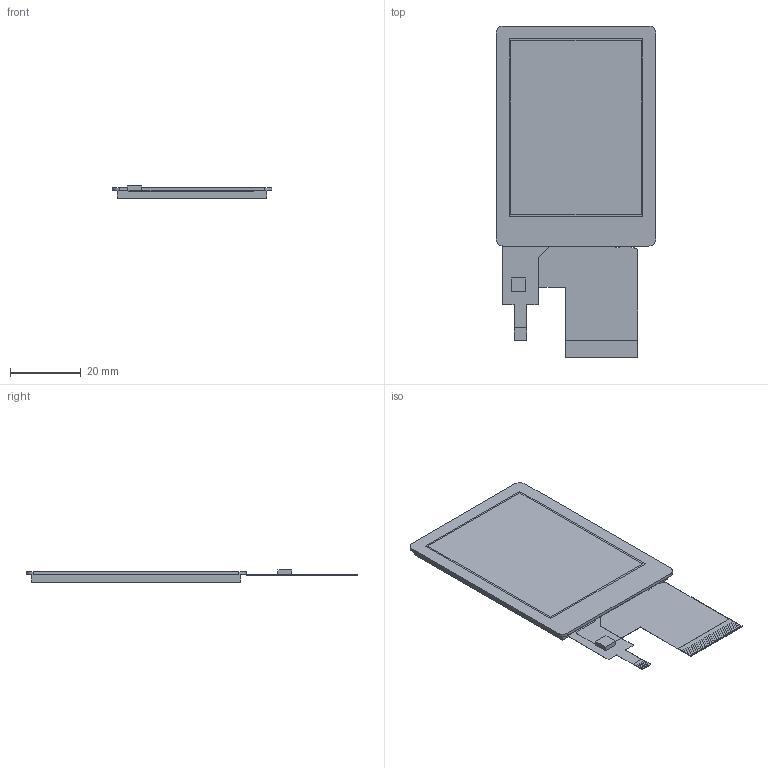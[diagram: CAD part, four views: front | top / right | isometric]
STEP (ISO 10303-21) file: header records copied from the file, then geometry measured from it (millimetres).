
FILE_DESCRIPTION (( 'STEP AP214' ), '1' );
FILE_NAME ('CFAF240320A0-024SC.STEP', '2024-02-05T20:19:20', ( '' ), ( '' ), 'SwSTEP 2.0', 'SolidWorks 2021', '' );
FILE_SCHEMA (( 'AUTOMOTIVE_DESIGN' ));
Length unit declared in the file: millimetre
Products named in the file (1): CFAF240320A0-024SC
Bounding box: 45 x 93.55 x 3.46 mm (x, y, z)
Volume: 7770.9 mm3; surface area: 13360.5 mm2
Topology: 50 solids, 50 shells, 340 faces, 718 edges, 481 vertices
Faces by surface type: plane 328, cylinder 12
Entity records: 13047 total; most frequent: CARTESIAN_POINT 1540, ORIENTED_EDGE 1436, DIRECTION 1424, EDGE_CURVE 718, VECTOR 694, LINE 694, VERTEX_POINT 481, UNCERTAINTY_MEASURE_WITH_UNIT 382
